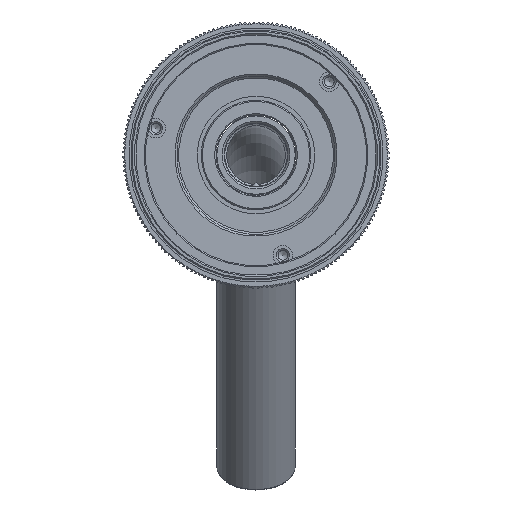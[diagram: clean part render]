
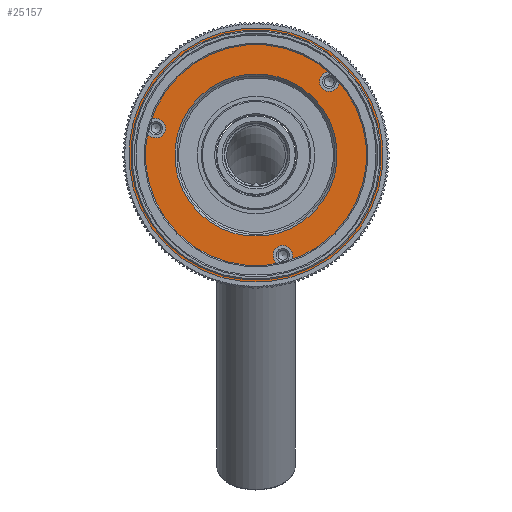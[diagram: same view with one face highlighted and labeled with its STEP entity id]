
A CAD part, left-side view. The second image highlights one B-rep face of the part: STEP entity #25157.
In plain terms, the highlighted planar face has unit normal (-1, 0, 0) as drawn and (0, 0, 1) by its records, which use the part's own axes.
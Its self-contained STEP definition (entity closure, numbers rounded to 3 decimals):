
#2865=PLANE('',#27296);
#8566=ORIENTED_EDGE('',*,*,#11106,.T.);
#8567=ORIENTED_EDGE('',*,*,#9111,.T.);
#8568=ORIENTED_EDGE('',*,*,#9117,.T.);
#8569=ORIENTED_EDGE('',*,*,#11107,.T.);
#8570=ORIENTED_EDGE('',*,*,#11094,.T.);
#9111=EDGE_CURVE('',#11486,#11486,#12776,.T.);
#9117=EDGE_CURVE('',#11493,#11493,#12782,.T.);
#11094=EDGE_CURVE('',#12577,#12577,#13503,.F.);
#11106=EDGE_CURVE('',#12586,#12586,#13510,.T.);
#11107=EDGE_CURVE('',#12587,#12587,#13511,.T.);
#11486=VERTEX_POINT('',#33973);
#11493=VERTEX_POINT('',#33992);
#12577=VERTEX_POINT('',#40106);
#12586=VERTEX_POINT('',#40132);
#12587=VERTEX_POINT('',#40134);
#12776=CIRCLE('',#25653,2.5);
#12782=CIRCLE('',#25665,2.5);
#13503=CIRCLE('',#27285,32.5);
#13510=CIRCLE('',#27297,20.75);
#13511=CIRCLE('',#27298,2.5);
#14802=EDGE_LOOP('',(#8566));
#14803=EDGE_LOOP('',(#8567));
#14804=EDGE_LOOP('',(#8568));
#14805=EDGE_LOOP('',(#8569));
#14806=EDGE_LOOP('',(#8570));
#16127=FACE_BOUND('',#14802,.T.);
#16128=FACE_BOUND('',#14803,.T.);
#16129=FACE_BOUND('',#14804,.T.);
#16130=FACE_BOUND('',#14805,.T.);
#16131=FACE_BOUND('',#14806,.T.);
#25157=ADVANCED_FACE('',(#16127,#16128,#16129,#16130,#16131),#2865,.F.);
#25653=AXIS2_PLACEMENT_3D('',#33972,#28435,#28436);
#25665=AXIS2_PLACEMENT_3D('',#33991,#28459,#28460);
#27285=AXIS2_PLACEMENT_3D('',#40105,#32237,#32238);
#27296=AXIS2_PLACEMENT_3D('',#40130,#32264,#32265);
#27297=AXIS2_PLACEMENT_3D('',#40131,#32266,#32267);
#27298=AXIS2_PLACEMENT_3D('',#40133,#32268,#32269);
#28435=DIRECTION('',(0.,0.,-1.));
#28436=DIRECTION('',(0.5,-0.866,0.));
#28459=DIRECTION('',(0.,0.,-1.));
#28460=DIRECTION('',(0.5,0.866,0.));
#32237=DIRECTION('',(0.,0.,-1.));
#32238=DIRECTION('',(-1.,0.,0.));
#32264=DIRECTION('',(0.,0.,-1.));
#32265=DIRECTION('',(-1.,0.,0.));
#32266=DIRECTION('',(0.,0.,-1.));
#32267=DIRECTION('',(-1.,0.,0.));
#32268=DIRECTION('',(0.,0.,-1.));
#32269=DIRECTION('',(-1.,0.,0.));
#33972=CARTESIAN_POINT('',(-13.25,22.95,-14.5));
#33973=CARTESIAN_POINT('',(-12.,20.785,-14.5));
#33991=CARTESIAN_POINT('',(-13.25,-22.95,-14.5));
#33992=CARTESIAN_POINT('',(-12.,-20.785,-14.5));
#40105=CARTESIAN_POINT('',(0.,0.,-14.5));
#40106=CARTESIAN_POINT('',(-32.5,0.,-14.5));
#40130=CARTESIAN_POINT('',(0.,0.,-14.5));
#40131=CARTESIAN_POINT('',(0.,0.,-14.5));
#40132=CARTESIAN_POINT('',(-20.75,0.,-14.5));
#40133=CARTESIAN_POINT('',(26.5,0.,-14.5));
#40134=CARTESIAN_POINT('',(24.,0.,-14.5));
